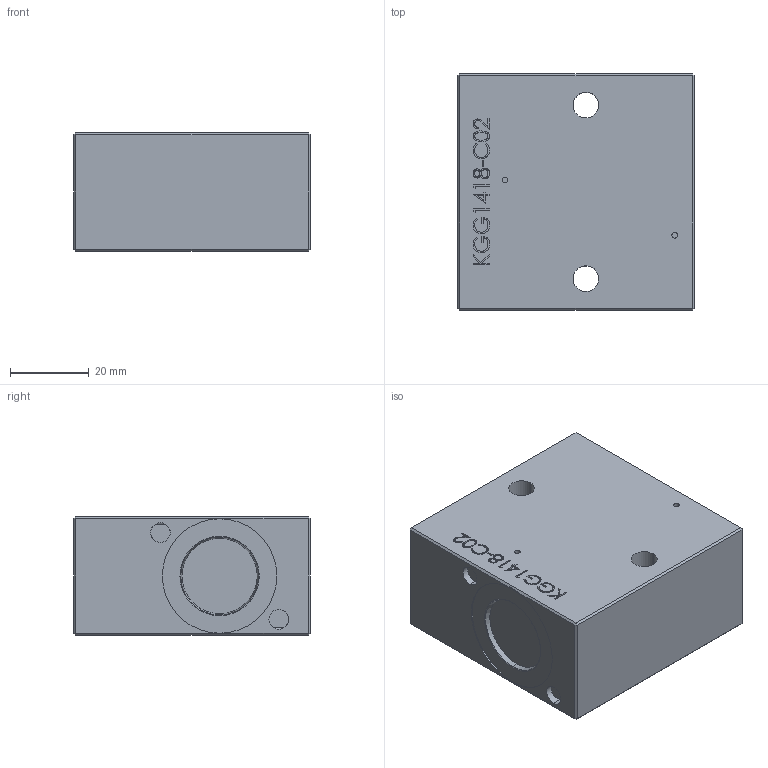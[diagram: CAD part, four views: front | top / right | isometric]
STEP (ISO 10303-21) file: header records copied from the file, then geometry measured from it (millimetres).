
FILE_DESCRIPTION (( 'STEP AP214' ), '1' );
FILE_NAME ('KGG1418-C02.STEP', '2016-11-25T10:34:29', ( '' ), ( '' ), 'SwSTEP 2.0', 'SolidWorks 2014', '' );
FILE_SCHEMA (( 'AUTOMOTIVE_DESIGN' ));
Length unit declared in the file: millimetre
Products named in the file (2): KGG1418-C02
Bounding box: 60 x 60 x 30 mm (x, y, z)
Volume: 104630.2 mm3; surface area: 15918.9 mm2
Topology: 1 solids, 1 shells, 218 faces, 539 edges, 349 vertices
Faces by surface type: plane 124, bspline 65, cylinder 22, cone 5, torus 2
Entity records: 10671 total; most frequent: CARTESIAN_POINT 5764, ORIENTED_EDGE 1078, DIRECTION 772, EDGE_CURVE 539, LINE 350, VECTOR 350, VERTEX_POINT 349, EDGE_LOOP 248
